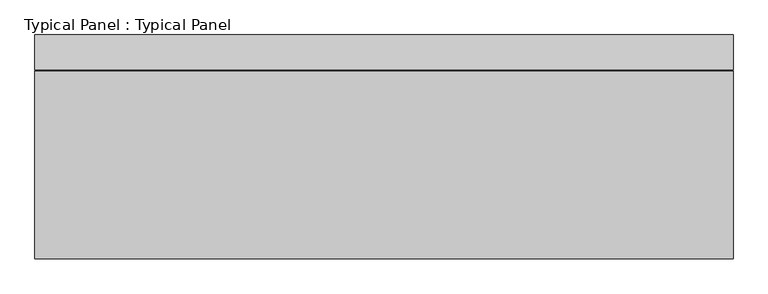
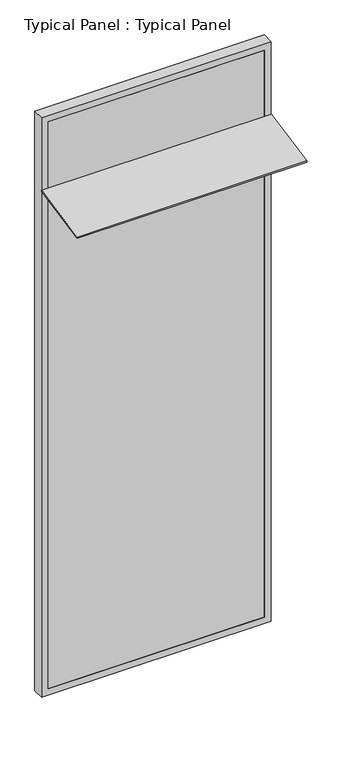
"""IFC4 building model written with IfcOpenShell, lengths in millimetres: plate geometry, Typical Panel : Typical Panel."""

from ifc_helpers import new_model, si_unit, frame, origin, place, context, project, spatial, polyline, outline, extrude, source, transform, mapped, element, save


def typical_panel_typical_panel_bf9a72a6(model_context):
    return source(origin(), model_context, "Body", "SweptSolid", [
        extrude(outline(polyline([(0.0, -410.0000001), (0.0, 0.0), (1500.0, 0.0), (1500.0, -410.0000001), (0.0, -410.0000001)])), frame((750.0, -405.5590553, 3411.9520401), z_axis=(0.0, -0.19080899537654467, 0.9816271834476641), x_axis=(-1.0, 0.0, 0.0)), (0.0, 0.0, 1.0), 10.0),
        extrude(outline(polyline([(0.0, -750.0), (0.0, 750.0), (4000.0, 750.0), (4000.0, -750.0), (0.0, -750.0)]), holes=[polyline([(45.0, 705.0), (45.0, -705.0), (3955.0, -705.0), (3955.0, 705.0), (45.0, 705.0)])]), frame((0.0, -1.5797986, 0.0), z_axis=(0.0, 1.0, 0.0), x_axis=(0.0, 0.0, 1.0)), (0.0, 0.0, 1.0), 75.0),
        extrude(outline(polyline([(705.0, -1.5797986), (-705.0, -1.5797986), (-705.0, 13.4202014), (705.0, 13.4202014), (705.0, -1.5797986)])), frame((0.0, 0.0, 45.0), z_axis=(0.0, 0.0, 1.0), x_axis=(1.0, 0.0, 0.0)), (0.0, 0.0, 1.0), 3910.0),
    ])


if __name__ == "__main__":
    model = new_model("IFC4")
    model_context = context("Model", 3, world=origin())
    ifc_project = project(units=[si_unit("LENGTHUNIT", "METRE", prefix="MILLI")], contexts=[model_context])
    site = spatial("IfcSite", under=ifc_project)
    building = spatial("IfcBuilding", under=site)
    placement = place(None, origin())
    typical_panel_typical_panel_shape = typical_panel_typical_panel_bf9a72a6(model_context)
    element("IfcPlate", 1, ObjectType="Typical Panel : Typical Panel", at=placement, inside=building, context=model_context, shape_type="MappedRepresentation", body=[
        mapped(typical_panel_typical_panel_shape, transform((0.0, 0.0, 0.0), x_axis=(1.0, 0.0, 0.0), y_axis=(0.0, 1.0, 0.0), z_axis=(0.0, 0.0, 1.0))),
    ])
    save(model, "model.ifc")
